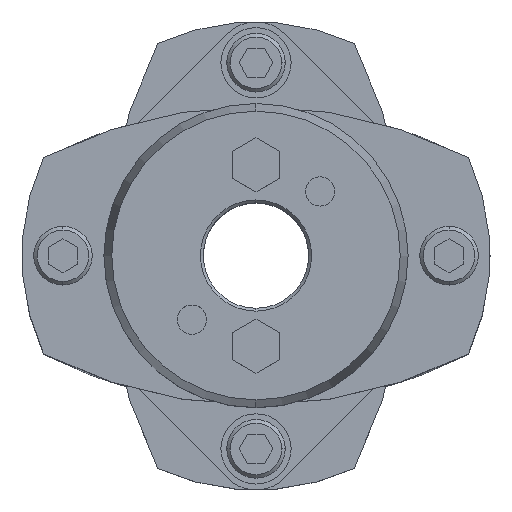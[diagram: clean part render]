
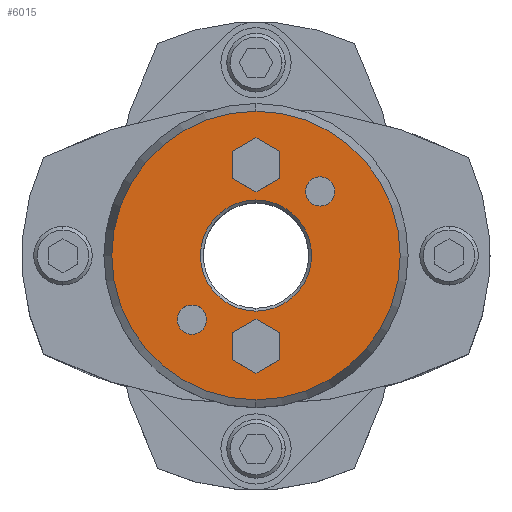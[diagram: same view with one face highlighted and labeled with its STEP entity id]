
A CAD part, top view. The second image highlights one B-rep face of the part: STEP entity #6015.
In plain terms, the highlighted planar face has unit normal (0, 0, 1).
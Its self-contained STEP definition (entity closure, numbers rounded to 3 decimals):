
#1677=CARTESIAN_POINT('',(0.,9.5,45.25));
#1678=VERTEX_POINT('',#1677);
#1694=CARTESIAN_POINT('',(0.,-9.5,45.25));
#1695=VERTEX_POINT('',#1694);
#1702=CARTESIAN_POINT('',(0.,0.,45.25));
#1703=DIRECTION('',(0.0,0.0,1.0));
#1704=DIRECTION('',(0.0,1.0,0.0));
#1705=AXIS2_PLACEMENT_3D('',#1702,#1703,#1704);
#1706=CIRCLE('',#1705,9.5);
#1707=EDGE_CURVE('',#1695,#1678,#1706,.T.);
#1865=CARTESIAN_POINT('',(0.,-24.66,45.25));
#1866=VERTEX_POINT('',#1865);
#1873=CARTESIAN_POINT('',(0.,24.66,45.25));
#1874=VERTEX_POINT('',#1873);
#1875=CARTESIAN_POINT('',(0.,0.,45.25));
#1876=DIRECTION('',(0.0,0.0,-1.0));
#1877=DIRECTION('',(0.0,-1.0,0.0));
#1878=AXIS2_PLACEMENT_3D('',#1875,#1876,#1877);
#1879=CIRCLE('',#1878,24.66);
#1880=EDGE_CURVE('',#1866,#1874,#1879,.T.);
#1975=CARTESIAN_POINT('',(10.96,13.46,45.25));
#1976=VERTEX_POINT('',#1975);
#1992=CARTESIAN_POINT('',(10.96,8.46,45.25));
#1993=VERTEX_POINT('',#1992);
#2000=CARTESIAN_POINT('',(10.96,10.96,45.25));
#2001=DIRECTION('',(0.0,0.0,-1.0));
#2002=DIRECTION('',(0.0,1.0,0.0));
#2003=AXIS2_PLACEMENT_3D('',#2000,#2001,#2002);
#2004=CIRCLE('',#2003,2.5);
#2005=EDGE_CURVE('',#1976,#1993,#2004,.T.);
#2017=CARTESIAN_POINT('',(-10.96,-8.46,45.25));
#2018=VERTEX_POINT('',#2017);
#2034=CARTESIAN_POINT('',(-10.96,-13.46,45.25));
#2035=VERTEX_POINT('',#2034);
#2042=CARTESIAN_POINT('',(-10.96,-10.96,45.25));
#2043=DIRECTION('',(0.0,0.0,-1.0));
#2044=DIRECTION('',(0.0,1.0,0.0));
#2045=AXIS2_PLACEMENT_3D('',#2042,#2043,#2044);
#2046=CIRCLE('',#2045,2.5);
#2047=EDGE_CURVE('',#2018,#2035,#2046,.T.);
#5259=CARTESIAN_POINT('',(0.,-10.881,45.25));
#5260=VERTEX_POINT('',#5259);
#5267=CARTESIAN_POINT('',(-4.,-13.191,45.25));
#5268=VERTEX_POINT('',#5267);
#5269=CARTESIAN_POINT('',(-4.,-13.191,45.25));
#5270=DIRECTION('',(0.866,0.5,0.0));
#5271=VECTOR('',#5270,4.619);
#5272=LINE('',#5269,#5271);
#5273=EDGE_CURVE('',#5268,#5260,#5272,.T.);
#5297=CARTESIAN_POINT('',(4.,-13.191,45.25));
#5298=VERTEX_POINT('',#5297);
#5305=CARTESIAN_POINT('',(0.,-10.881,45.25));
#5306=DIRECTION('',(0.866,-0.5,0.0));
#5307=VECTOR('',#5306,4.619);
#5308=LINE('',#5305,#5307);
#5309=EDGE_CURVE('',#5260,#5298,#5308,.T.);
#5328=CARTESIAN_POINT('',(4.,-17.809,45.25));
#5329=VERTEX_POINT('',#5328);
#5336=CARTESIAN_POINT('',(4.,-13.191,45.25));
#5337=DIRECTION('',(0.0,-1.0,0.0));
#5338=VECTOR('',#5337,4.619);
#5339=LINE('',#5336,#5338);
#5340=EDGE_CURVE('',#5298,#5329,#5339,.T.);
#5359=CARTESIAN_POINT('',(0.,-20.119,45.25));
#5360=VERTEX_POINT('',#5359);
#5367=CARTESIAN_POINT('',(4.,-17.809,45.25));
#5368=DIRECTION('',(-0.866,-0.5,0.0));
#5369=VECTOR('',#5368,4.619);
#5370=LINE('',#5367,#5369);
#5371=EDGE_CURVE('',#5329,#5360,#5370,.T.);
#5390=CARTESIAN_POINT('',(-4.,-17.809,45.25));
#5391=VERTEX_POINT('',#5390);
#5398=CARTESIAN_POINT('',(0.,-20.119,45.25));
#5399=DIRECTION('',(-0.866,0.5,0.0));
#5400=VECTOR('',#5399,4.619);
#5401=LINE('',#5398,#5400);
#5402=EDGE_CURVE('',#5360,#5391,#5401,.T.);
#5420=CARTESIAN_POINT('',(-4.,-17.809,45.25));
#5421=DIRECTION('',(0.0,1.0,0.0));
#5422=VECTOR('',#5421,4.619);
#5423=LINE('',#5420,#5422);
#5424=EDGE_CURVE('',#5391,#5268,#5423,.T.);
#5459=CARTESIAN_POINT('',(0.,20.119,45.25));
#5460=VERTEX_POINT('',#5459);
#5467=CARTESIAN_POINT('',(-4.,17.809,45.25));
#5468=VERTEX_POINT('',#5467);
#5469=CARTESIAN_POINT('',(-4.,17.809,45.25));
#5470=DIRECTION('',(0.866,0.5,0.0));
#5471=VECTOR('',#5470,4.619);
#5472=LINE('',#5469,#5471);
#5473=EDGE_CURVE('',#5468,#5460,#5472,.T.);
#5497=CARTESIAN_POINT('',(4.,17.809,45.25));
#5498=VERTEX_POINT('',#5497);
#5505=CARTESIAN_POINT('',(0.,20.119,45.25));
#5506=DIRECTION('',(0.866,-0.5,0.0));
#5507=VECTOR('',#5506,4.619);
#5508=LINE('',#5505,#5507);
#5509=EDGE_CURVE('',#5460,#5498,#5508,.T.);
#5528=CARTESIAN_POINT('',(4.,13.191,45.25));
#5529=VERTEX_POINT('',#5528);
#5536=CARTESIAN_POINT('',(4.,17.809,45.25));
#5537=DIRECTION('',(0.0,-1.0,0.0));
#5538=VECTOR('',#5537,4.619);
#5539=LINE('',#5536,#5538);
#5540=EDGE_CURVE('',#5498,#5529,#5539,.T.);
#5559=CARTESIAN_POINT('',(0.,10.881,45.25));
#5560=VERTEX_POINT('',#5559);
#5567=CARTESIAN_POINT('',(4.,13.191,45.25));
#5568=DIRECTION('',(-0.866,-0.5,0.0));
#5569=VECTOR('',#5568,4.619);
#5570=LINE('',#5567,#5569);
#5571=EDGE_CURVE('',#5529,#5560,#5570,.T.);
#5590=CARTESIAN_POINT('',(-4.,13.191,45.25));
#5591=VERTEX_POINT('',#5590);
#5598=CARTESIAN_POINT('',(0.,10.881,45.25));
#5599=DIRECTION('',(-0.866,0.5,0.0));
#5600=VECTOR('',#5599,4.619);
#5601=LINE('',#5598,#5600);
#5602=EDGE_CURVE('',#5560,#5591,#5601,.T.);
#5620=CARTESIAN_POINT('',(-4.,13.191,45.25));
#5621=DIRECTION('',(0.0,1.0,0.0));
#5622=VECTOR('',#5621,4.619);
#5623=LINE('',#5620,#5622);
#5624=EDGE_CURVE('',#5591,#5468,#5623,.T.);
#5650=CARTESIAN_POINT('',(-10.96,-10.96,45.25));
#5651=DIRECTION('',(0.0,0.0,-1.0));
#5652=DIRECTION('',(0.0,1.0,0.0));
#5653=AXIS2_PLACEMENT_3D('',#5650,#5651,#5652);
#5654=CIRCLE('',#5653,2.5);
#5655=EDGE_CURVE('',#2035,#2018,#5654,.T.);
#5684=CARTESIAN_POINT('',(10.96,10.96,45.25));
#5685=DIRECTION('',(0.0,0.0,-1.0));
#5686=DIRECTION('',(0.0,1.0,0.0));
#5687=AXIS2_PLACEMENT_3D('',#5684,#5685,#5686);
#5688=CIRCLE('',#5687,2.5);
#5689=EDGE_CURVE('',#1993,#1976,#5688,.T.);
#5962=CARTESIAN_POINT('',(0.,0.,45.25));
#5963=DIRECTION('',(0.0,0.0,-1.0));
#5964=DIRECTION('',(0.0,-1.0,0.0));
#5965=AXIS2_PLACEMENT_3D('',#5962,#5963,#5964);
#5966=CIRCLE('',#5965,24.66);
#5967=EDGE_CURVE('',#1874,#1866,#5966,.T.);
#5972=CARTESIAN_POINT('',(0.,2.364,45.25));
#5973=DIRECTION('',(0.0,0.0,1.0));
#5974=DIRECTION('',(0.0,1.0,0.0));
#5975=AXIS2_PLACEMENT_3D('',#5972,#5973,#5974);
#5976=PLANE('',#5975);
#5977=ORIENTED_EDGE('',*,*,#5967,.F.);
#5978=ORIENTED_EDGE('',*,*,#1880,.F.);
#5979=EDGE_LOOP('',(#5977,#5978));
#5980=FACE_OUTER_BOUND('',#5979,.T.);
#5981=ORIENTED_EDGE('',*,*,#5273,.T.);
#5982=ORIENTED_EDGE('',*,*,#5309,.T.);
#5983=ORIENTED_EDGE('',*,*,#5340,.T.);
#5984=ORIENTED_EDGE('',*,*,#5371,.T.);
#5985=ORIENTED_EDGE('',*,*,#5402,.T.);
#5986=ORIENTED_EDGE('',*,*,#5424,.T.);
#5987=EDGE_LOOP('',(#5981,#5982,#5983,#5984,#5985,#5986));
#5988=FACE_BOUND('',#5987,.T.);
#5989=ORIENTED_EDGE('',*,*,#5473,.T.);
#5990=ORIENTED_EDGE('',*,*,#5509,.T.);
#5991=ORIENTED_EDGE('',*,*,#5540,.T.);
#5992=ORIENTED_EDGE('',*,*,#5571,.T.);
#5993=ORIENTED_EDGE('',*,*,#5602,.T.);
#5994=ORIENTED_EDGE('',*,*,#5624,.T.);
#5995=EDGE_LOOP('',(#5989,#5990,#5991,#5992,#5993,#5994));
#5996=FACE_BOUND('',#5995,.T.);
#5997=ORIENTED_EDGE('',*,*,#2047,.T.);
#5998=ORIENTED_EDGE('',*,*,#5655,.T.);
#5999=EDGE_LOOP('',(#5997,#5998));
#6000=FACE_BOUND('',#5999,.T.);
#6001=ORIENTED_EDGE('',*,*,#2005,.T.);
#6002=ORIENTED_EDGE('',*,*,#5689,.T.);
#6003=EDGE_LOOP('',(#6001,#6002));
#6004=FACE_BOUND('',#6003,.T.);
#6005=ORIENTED_EDGE('',*,*,#1707,.F.);
#6006=CARTESIAN_POINT('',(0.,0.,45.25));
#6007=DIRECTION('',(0.0,0.0,1.0));
#6008=DIRECTION('',(0.0,1.0,0.0));
#6009=AXIS2_PLACEMENT_3D('',#6006,#6007,#6008);
#6010=CIRCLE('',#6009,9.5);
#6011=EDGE_CURVE('',#1678,#1695,#6010,.T.);
#6012=ORIENTED_EDGE('',*,*,#6011,.F.);
#6013=EDGE_LOOP('',(#6005,#6012));
#6014=FACE_BOUND('',#6013,.T.);
#6015=ADVANCED_FACE('',(#5980,#5988,#5996,#6000,#6004,#6014),#5976,.T.);
